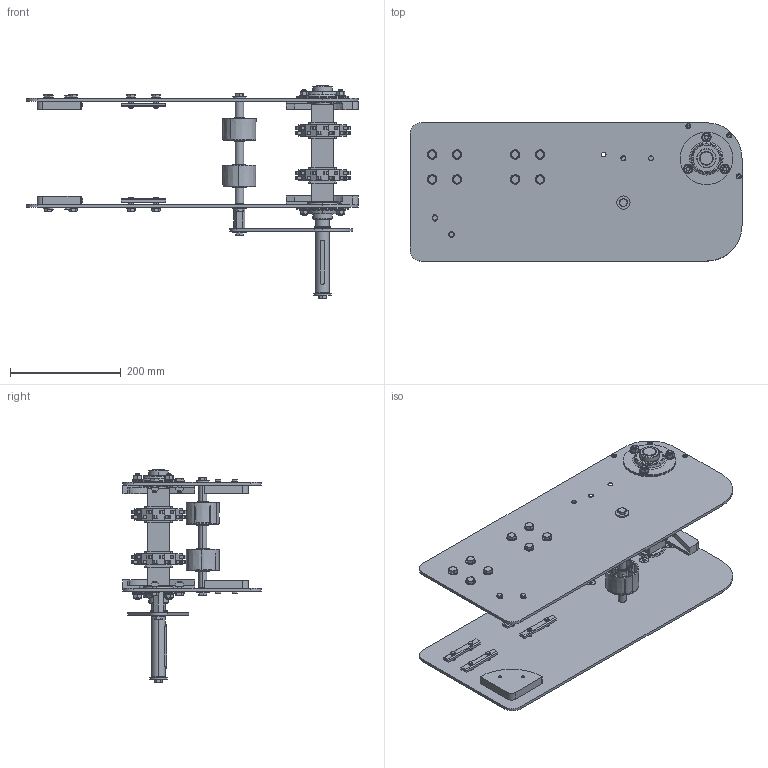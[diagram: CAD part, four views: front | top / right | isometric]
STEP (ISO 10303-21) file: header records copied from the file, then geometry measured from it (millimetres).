
FILE_DESCRIPTION (( 'STEP AP203' ), '1' );
FILE_NAME ('3000.152.163.STEP', '2018-03-09T16:25:22', ( '' ), ( '' ), 'SwSTEP 2.0', 'SolidWorks 2016', '' );
FILE_SCHEMA (( 'CONFIG_CONTROL_DESIGN' ));
Length unit declared in the file: millimetre
Products named in the file (30): SBPF 205; 3000.000.007; DADI ESAGONALI NORMALI UNI 5588 INOX_M8 UNI 558 INOX; 251-82205; 084.808.005-1; circlip for shafts normal_din_Circlip DIN 471 - 16 x 1; RONDELLE FASCIA LARGA UNI 6593 INOX_8.4x32 UNI 6593 INOX; 3000.152.004; M25S1240Q6; 084.802.045; RONDELLE UNI 6592 INOX_8.4x18 UNI 6592 INOX; 3000.152.001_Default<A macchina>; RONDELLE FASCIA LARGA UNI 6593 INOX_8.4x24 UNI 6593 INOX; VITI TSEI UNI 5933 INOX_0412UNI5933A2; VITI TE UNI 5739 INOX_M5x20 UNI 5739 INOX; CHIAVETTE_A 8x7x80 UNI 6604-69; VITI TSEI UNI 5933 INOX_0820UNI5933A2; circlip for shafts normal_din_Circlip DIN 471 - 25 x 1.2; Copia di Parte4^3000.152.163; 3000.000.001; 3000.152.163; VITI TE UNI 5739_M8x16 UNI 5739; VITI TE UNI 5739 INOX_M8x20 UNI 5739 INOX; 3000.000.006; RONDELLE FASCIA LARGA UNI 6593_8.4x24 UNI 6593; circlip for shafts normal_din_Circlip DIN 471 - 8 x 0.8; RONDELLE UNI 6592 INOX_5.3x10 UNI 6592 INOX; 084.302.016; 3000.000.002; 3000.000.005
Assembly tree (109 placements, depth 2):
  3000.152.163
    3000.000.001
    3000.000.002
    3000.152.001_Default<A macchina>
    3000.152.004
    3000.000.005  x2
    3000.000.006
    3000.000.007
    084.302.016  x8
    CHIAVETTE_A 8x7x80 UNI 6604-69
    084.802.045
    Copia di Parte4^3000.152.163
    084.808.005-1
    SBPF 205  x2
    circlip for shafts normal_din_Circlip DIN 471 - 8 x 0.8  x5
    M25S1240Q6  x2
    251-82205  x2
    VITI TSEI UNI 5933 INOX_0820UNI5933A2  x7
    RONDELLE UNI 6592 INOX_8.4x18 UNI 6592 INOX  x22
    DADI ESAGONALI NORMALI UNI 5588 INOX_M8 UNI 558 INOX  x6
    VITI TE UNI 5739 INOX_M8x20 UNI 5739 INOX  x19
    RONDELLE FASCIA LARGA UNI 6593 INOX_8.4x24 UNI 6593 INOX  x2
    RONDELLE FASCIA LARGA UNI 6593 INOX_8.4x32 UNI 6593 INOX
    RONDELLE FASCIA LARGA UNI 6593_8.4x24 UNI 6593
    VITI TE UNI 5739_M8x16 UNI 5739
    VITI TSEI UNI 5933 INOX_0412UNI5933A2  x6
    RONDELLE UNI 6592 INOX_5.3x10 UNI 6592 INOX  x4
    VITI TE UNI 5739 INOX_M5x20 UNI 5739 INOX  x4
    circlip for shafts normal_din_Circlip DIN 471 - 16 x 1  x4
    circlip for shafts normal_din_Circlip DIN 471 - 25 x 1.2
Bounding box: 600 x 250 x 383.83 mm (x, y, z)
Volume: 2669012.7 mm3; surface area: 1027180.8 mm2
Topology: 161 solids, 161 shells, 2600 faces, 6204 edges, 3975 vertices
Faces by surface type: plane 1300, cylinder 796, cone 432, bspline 36, sphere 20, torus 16
Entity records: 37541 total; most frequent: CARTESIAN_POINT 6567, DIRECTION 5596, ORIENTED_EDGE 5078, EDGE_CURVE 2539, AXIS2_PLACEMENT_3D 2087, VERTEX_POINT 1650, LINE 1422, VECTOR 1422
